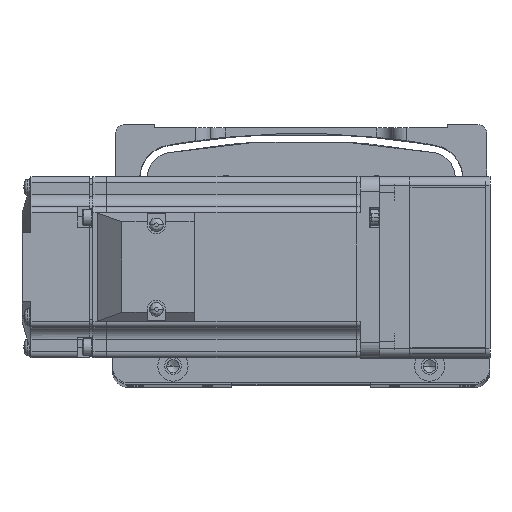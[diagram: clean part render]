
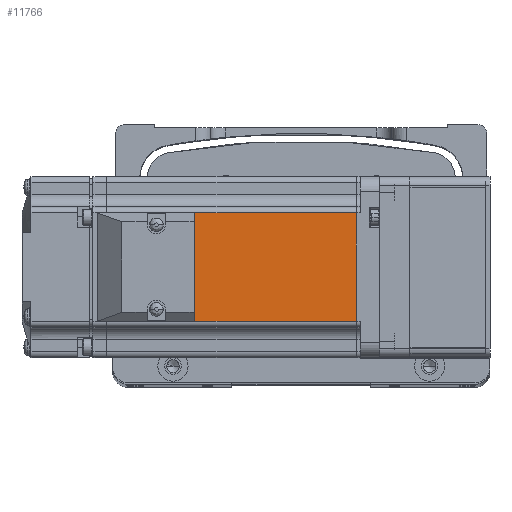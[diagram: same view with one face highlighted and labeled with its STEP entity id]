
A CAD part, top view. The second image highlights one B-rep face of the part: STEP entity #11766.
In plain terms, the highlighted planar face has unit normal (0, 0, 1) as drawn and (0, 1, 0) by its records, which use the part's own axes.
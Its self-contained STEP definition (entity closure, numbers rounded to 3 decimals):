
#1807 = LINE ( 'NONE', #65303, #35254 ) ;
#2945 = LINE ( 'NONE', #12847, #19681 ) ;
#7739 = CARTESIAN_POINT ( 'NONE',  ( -90.45, 30., 0. ) ) ;
#8914 = EDGE_CURVE ( 'NONE', #34630, #24039, #1807, .T. ) ;
#9357 = VERTEX_POINT ( 'NONE', #50301 ) ;
#11766 = ADVANCED_FACE ( 'NONE', ( #31847 ), #31020, .T. ) ;
#12670 = LINE ( 'NONE', #7739, #60878 ) ;
#12847 = CARTESIAN_POINT ( 'NONE',  ( -6.5, 30., 18. ) ) ;
#14123 = VECTOR ( 'NONE', #68666, 1000. ) ;
#16934 = EDGE_LOOP ( 'NONE', ( #62245, #48998, #71756, #51393 ) ) ;
#19681 = VECTOR ( 'NONE', #50485, 1000. ) ;
#21360 = EDGE_CURVE ( 'NONE', #34724, #9357, #2945, .T. ) ;
#23831 = AXIS2_PLACEMENT_3D ( 'NONE', #24935, #68996, #31285 ) ;
#24039 = VERTEX_POINT ( 'NONE', #69117 ) ;
#24935 = CARTESIAN_POINT ( 'NONE',  ( -6.5, 30., 25. ) ) ;
#27390 = CARTESIAN_POINT ( 'NONE',  ( -7.75, 30., -18. ) ) ;
#27544 = DIRECTION ( 'NONE',  ( -1., 0., 0. ) ) ;
#28209 = CARTESIAN_POINT ( 'NONE',  ( -90.45, 30., 18. ) ) ;
#31020 = PLANE ( 'NONE',  #23831 ) ;
#31285 = DIRECTION ( 'NONE',  ( 0., 0., 1. ) ) ;
#31847 = FACE_OUTER_BOUND ( 'NONE', #16934, .T. ) ;
#34630 = VERTEX_POINT ( 'NONE', #27390 ) ;
#34724 = VERTEX_POINT ( 'NONE', #28209 ) ;
#35254 = VECTOR ( 'NONE', #27544, 1000. ) ;
#46611 = EDGE_CURVE ( 'NONE', #34630, #9357, #47520, .T. ) ;
#47520 = LINE ( 'NONE', #62354, #14123 ) ;
#48998 = ORIENTED_EDGE ( 'NONE', *, *, #8914, .T. ) ;
#50301 = CARTESIAN_POINT ( 'NONE',  ( -7.75, 30., 18. ) ) ;
#50485 = DIRECTION ( 'NONE',  ( 1., 0., 0. ) ) ;
#51393 = ORIENTED_EDGE ( 'NONE', *, *, #21360, .T. ) ;
#51693 = DIRECTION ( 'NONE',  ( 0., 0., 1. ) ) ;
#60878 = VECTOR ( 'NONE', #51693, 1000. ) ;
#62245 = ORIENTED_EDGE ( 'NONE', *, *, #46611, .F. ) ;
#62354 = CARTESIAN_POINT ( 'NONE',  ( -7.75, 30., 0. ) ) ;
#62477 = EDGE_CURVE ( 'NONE', #24039, #34724, #12670, .T. ) ;
#65303 = CARTESIAN_POINT ( 'NONE',  ( -6.5, 30., -18. ) ) ;
#68666 = DIRECTION ( 'NONE',  ( 0., 0., 1. ) ) ;
#68996 = DIRECTION ( 'NONE',  ( 0., 1., 0. ) ) ;
#69117 = CARTESIAN_POINT ( 'NONE',  ( -90.45, 30., -18. ) ) ;
#71756 = ORIENTED_EDGE ( 'NONE', *, *, #62477, .T. ) ;
